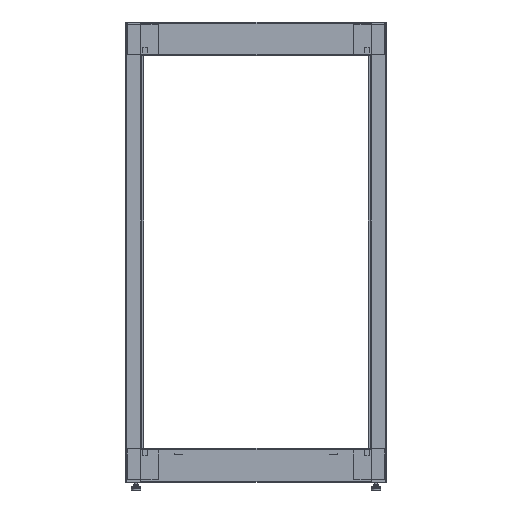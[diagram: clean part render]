
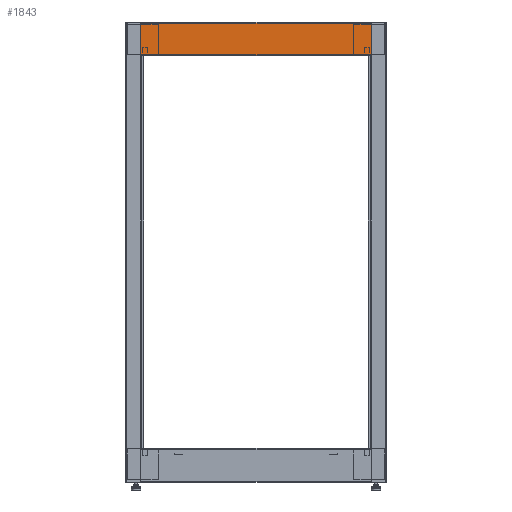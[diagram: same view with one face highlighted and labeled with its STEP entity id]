
A CAD part, front view. The second image highlights one B-rep face of the part: STEP entity #1843.
In plain terms, the highlighted planar face has unit normal (0, -1, 0) as drawn and (1, 0, 0) by its records, which use the part's own axes.
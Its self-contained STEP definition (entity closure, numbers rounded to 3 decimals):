
#1843 = ADVANCED_FACE( '', ( #3804 ), #3805, .F. );
#3804 = FACE_OUTER_BOUND( '', #6121, .T. );
#3805 = PLANE( '', #6122 );
#6121 = EDGE_LOOP( '', ( #10025, #10026, #10027, #10028 ) );
#6122 = AXIS2_PLACEMENT_3D( '', #10029, #10030, #10031 );
#10025 = ORIENTED_EDGE( '', *, *, #14399, .T. );
#10026 = ORIENTED_EDGE( '', *, *, #14400, .T. );
#10027 = ORIENTED_EDGE( '', *, *, #14401, .T. );
#10028 = ORIENTED_EDGE( '', *, *, #13452, .T. );
#10029 = CARTESIAN_POINT( '', ( 300.038, -313.766, -1.587 ) );
#10030 = DIRECTION( '', ( -1., 0., 0. ) );
#10031 = DIRECTION( '', ( 0., 0., 1. ) );
#13452 = EDGE_CURVE( '', #15955, #15953, #15956, .T. );
#14399 = EDGE_CURVE( '', #15953, #17451, #17452, .T. );
#14400 = EDGE_CURVE( '', #17451, #17453, #17454, .T. );
#14401 = EDGE_CURVE( '', #17453, #15955, #17455, .T. );
#15953 = VERTEX_POINT( '', #19460 );
#15955 = VERTEX_POINT( '', #19462 );
#15956 = LINE( '', #19463, #19464 );
#17451 = VERTEX_POINT( '', #21576 );
#17452 = LINE( '', #21577, #21578 );
#17453 = VERTEX_POINT( '', #21579 );
#17454 = LINE( '', #21580, #21581 );
#17455 = LINE( '', #21582, #21583 );
#19460 = CARTESIAN_POINT( '', ( 300.038, -313.766, -2.743 ) );
#19462 = CARTESIAN_POINT( '', ( 300.038, 313.766, -2.743 ) );
#19463 = CARTESIAN_POINT( '', ( 300.038, 313.766, -2.743 ) );
#19464 = VECTOR( '', #23379, 1000. );
#21576 = CARTESIAN_POINT( '', ( 300.038, -313.766, -89.179 ) );
#21577 = CARTESIAN_POINT( '', ( 300.038, -313.766, -1.587 ) );
#21578 = VECTOR( '', #24572, 1000. );
#21579 = CARTESIAN_POINT( '', ( 300.038, 313.766, -89.179 ) );
#21580 = CARTESIAN_POINT( '', ( 300.038, -313.766, -89.179 ) );
#21581 = VECTOR( '', #24573, 1000. );
#21582 = CARTESIAN_POINT( '', ( 300.038, 313.766, -1.587 ) );
#21583 = VECTOR( '', #24574, 1000. );
#23379 = DIRECTION( '', ( 0., -1., 0. ) );
#24572 = DIRECTION( '', ( 0., 0., -1. ) );
#24573 = DIRECTION( '', ( 0., 1., 0. ) );
#24574 = DIRECTION( '', ( 0., 0., 1. ) );
